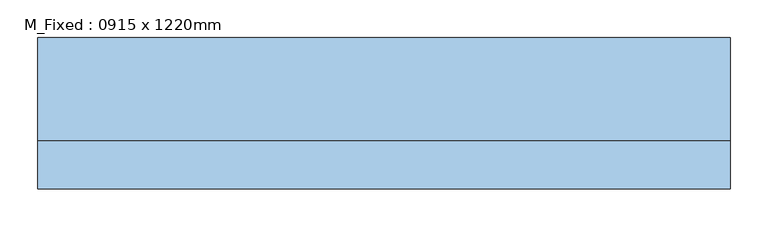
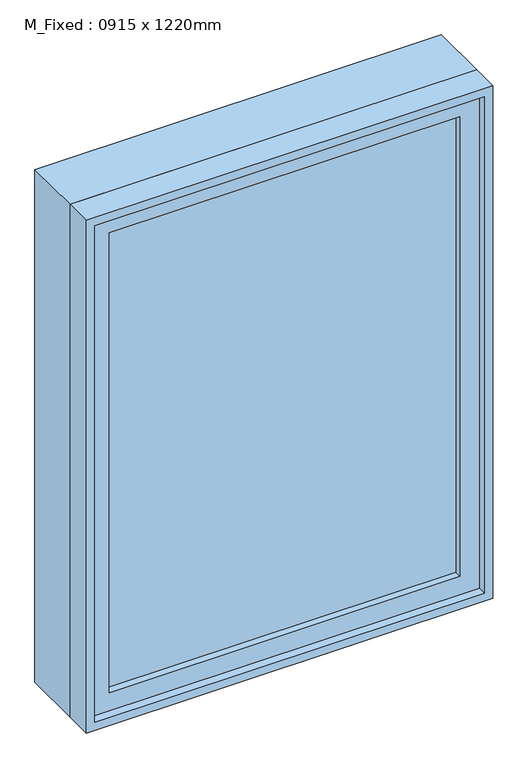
"""IFC4 building model written with IfcOpenShell, lengths in millimetres: window geometry, M_Fixed : 0915 x 1220mm."""

import ifcopenshell
import ifcopenshell.guid

model = None  # the IFC model being written
_history = None  # IfcOwnerHistory: only IFC2X3 demands one
_inside = {}  # id of a spatial element -> (the spatial element, [elements in it])
_under = {}  # id of a project, library or spatial element -> (it, [spatial elements below it])
_declared = {}  # id of a project -> (the project, [libraries it declares])
_typed = {}  # id of a type object -> (the type object, [elements of that type])
_made_of = {}  # id of a material, layer set ... -> (it, [elements and type objects made of it])


def new_model(schema):
    """Start an empty IFC model of exactly this schema.

    Asked for "IFC4X3", IfcOpenShell would pick the latest addendum, in which some entities
    have other attributes; the version numbers below select the first issue.
    IFC2X3 requires an IfcOwnerHistory on every rooted entity: one is made here for all.
    """
    global model, _history
    if schema == "IFC4X3":
        model = ifcopenshell.file(schema_version=(4, 3, 0, 0))
    else:
        model = ifcopenshell.file(schema=schema)
    _inside.clear()
    _under.clear()
    _declared.clear()
    _typed.clear()
    _made_of.clear()
    _history = None
    if model.schema == "IFC2X3":
        org = make("IfcOrganization", Name="unknown")
        user = make(
            "IfcPersonAndOrganization",
            ThePerson=make("IfcPerson", FamilyName="unknown"),
            TheOrganization=org,
        )
        app = make(
            "IfcApplication",
            ApplicationDeveloper=org,
            Version="unknown",
            ApplicationFullName="unknown",
            ApplicationIdentifier="unknown",
        )
        _history = make(
            "IfcOwnerHistory",
            OwningUser=user,
            OwningApplication=app,
            ChangeAction="ADDED",
            CreationDate=0,
        )
    return model


def make(cls, **values):
    """One entity of the class cls with the attributes given. An attribute that is None is left unset."""
    return model.create_entity(
        cls, **{name: value for name, value in values.items() if value is not None}
    )


def rooted(cls, **values):
    """An entity with a GlobalId (a new one), such as an element, a storey or a relation."""
    return make(cls, GlobalId=ifcopenshell.guid.new(), OwnerHistory=_history, **values)


def si_unit(unit_type, name, prefix=None):
    """IfcSIUnit, for example si_unit("LENGTHUNIT", "METRE", prefix="MILLI")."""
    return make("IfcSIUnit", UnitType=unit_type, Prefix=prefix, Name=name)


def assignment(units):
    """IfcUnitAssignment: the units of a project."""
    return None if units is None else make("IfcUnitAssignment", Units=units)


def point(xyz):
    """IfcCartesianPoint."""
    return None if xyz is None else make("IfcCartesianPoint", Coordinates=xyz)


def direction(xyz):
    """IfcDirection."""
    return None if xyz is None else make("IfcDirection", DirectionRatios=xyz)


def frame(location, z_axis=None, x_axis=None):
    """IfcAxis2Placement3D, a coordinate frame: its origin and axes. An axis left out is left unset."""
    return make(
        "IfcAxis2Placement3D",
        Location=point(location),
        Axis=direction(z_axis),
        RefDirection=direction(x_axis),
    )


def origin():
    """The frame at (0, 0, 0) with its axes left unset."""
    return frame((0.0, 0.0, 0.0))


def place(relative_to, where):
    """IfcLocalPlacement: puts the frame where relative to a parent placement (None: the world)."""
    return make(
        "IfcLocalPlacement", PlacementRelTo=relative_to, RelativePlacement=where
    )


def context(
    kind, dimensions, precision=None, world=None, true_north=None, identifier=None
):
    """IfcGeometricRepresentationContext, for example the 3D "Model" context."""
    return make(
        "IfcGeometricRepresentationContext",
        ContextIdentifier=identifier,
        ContextType=kind,
        CoordinateSpaceDimension=dimensions,
        Precision=precision,
        WorldCoordinateSystem=world,
        TrueNorth=true_north,
    )


def project(units=None, contexts=None):
    """IfcProject with its units and contexts."""
    return rooted(
        "IfcProject",
        Name="project",
        RepresentationContexts=contexts,
        UnitsInContext=assignment(units),
    )


def spatial(cls, under=None, at=None, **own):
    """A site, building, storey or space (cls), placed at a placement, below another one or the project."""
    s = rooted(cls, ObjectPlacement=at, **own)
    if under is not None:
        _under.setdefault(under.id(), (under, []))[1].append(s)
    return s


def polyline(points):
    """IfcPolyline through the points."""
    return make("IfcPolyline", Points=[point(p) for p in points])


def outline(outer, holes=None, kind="AREA"):
    """IfcArbitraryClosedProfileDef: a profile drawn as a closed curve; with holes, ...WithVoids."""
    if holes is None:
        return make("IfcArbitraryClosedProfileDef", ProfileType=kind, OuterCurve=outer)
    return make(
        "IfcArbitraryProfileDefWithVoids",
        ProfileType=kind,
        OuterCurve=outer,
        InnerCurves=holes,
    )


def extrude(swept, where, along, depth):
    """IfcExtrudedAreaSolid: the profile swept, set in the frame where, extruded along a direction by depth."""
    return make(
        "IfcExtrudedAreaSolid",
        SweptArea=swept,
        Position=where,
        ExtrudedDirection=direction(along),
        Depth=depth,
    )


def shape(context_of_items, identifier, shape_type, items):
    """IfcShapeRepresentation: the items that make up one representation, for example the "Body"."""
    return make(
        "IfcShapeRepresentation",
        ContextOfItems=context_of_items,
        RepresentationIdentifier=identifier,
        RepresentationType=shape_type,
        Items=items,
    )


def source(mapping_origin, context_of_items, identifier, shape_type, items):
    """IfcRepresentationMap: a shape defined once, which mapped items show again and again."""
    return make(
        "IfcRepresentationMap",
        MappingOrigin=mapping_origin,
        MappedRepresentation=shape(context_of_items, identifier, shape_type, items),
    )


def transform(
    local_origin,
    x_axis=None,
    y_axis=None,
    z_axis=None,
    scale=None,
    scale2=None,
    scale3=None,
    uniform=True,
):
    """IfcCartesianTransformationOperator3D, or its non-uniform kind. x_axis, y_axis, z_axis: its Axis1, 2, 3."""
    if uniform:
        return make(
            "IfcCartesianTransformationOperator3D",
            Axis1=direction(x_axis),
            Axis2=direction(y_axis),
            LocalOrigin=point(local_origin),
            Scale=scale,
            Axis3=direction(z_axis),
        )
    return make(
        "IfcCartesianTransformationOperator3DnonUniform",
        Axis1=direction(x_axis),
        Axis2=direction(y_axis),
        LocalOrigin=point(local_origin),
        Scale=scale,
        Axis3=direction(z_axis),
        Scale2=scale2,
        Scale3=scale3,
    )


def mapped(mapping_source, mapping_target):
    """IfcMappedItem: shows the shape of a source again, moved by a transform."""
    return make(
        "IfcMappedItem", MappingSource=mapping_source, MappingTarget=mapping_target
    )


def made_of(thing, what):
    """Note that an element or type object is made of a material, layer set ...; save() writes the relation."""
    if what is not None:
        _made_of.setdefault(what.id(), (what, []))[1].append(thing)
    return thing


def element(
    cls,
    number,
    at=None,
    inside=None,
    cuts=None,
    type_object=None,
    material=None,
    context=None,
    identifier="Body",
    shape_type=None,
    held_by="IfcProductDefinitionShape",
    body=None,
    shapes=None,
    **own,
):
    """One element of the class cls, such as IfcWall. Its Tag is "e" and its number.

    at: its placement. inside: the storey or other place that contains it. cuts: it is an
    opening in that element (IfcRelVoidsElement). A single representation is given by context,
    identifier, shape_type and body (its items); several are given by shapes. held_by: the class
    of the entity that holds the representations. save() writes the other relations.
    """
    e = rooted(cls, Tag="e%d" % number, ObjectPlacement=at, **own)
    if body is not None:
        shapes = [shape(context, identifier, shape_type, body)]
    if shapes is not None:
        e.Representation = make(held_by, Representations=shapes)
    if inside is not None:
        _inside.setdefault(inside.id(), (inside, []))[1].append(e)
    if cuts is not None:
        rooted(
            "IfcRelVoidsElement", RelatingBuildingElement=cuts, RelatedOpeningElement=e
        )
    if type_object is not None:
        _typed.setdefault(type_object.id(), (type_object, []))[1].append(e)
    return made_of(e, material)


def aggregate(whole, parts):
    """IfcRelAggregates: a whole, such as a stair, and the parts it consists of."""
    return rooted("IfcRelAggregates", RelatingObject=whole, RelatedObjects=parts)


def save(model, path):
    """Write the relations noted so far, then the file.

    IfcRelAggregates (storeys below a building ...), IfcRelContainedInSpatialStructure (elements
    in a storey), IfcRelDefinesByType, IfcRelAssociatesMaterial and IfcRelDeclares: one each for
    every whole, place, type object, material and project.
    """
    for whole, parts in _under.values():
        aggregate(whole, parts)
    for where, things in _inside.values():
        rooted(
            "IfcRelContainedInSpatialStructure",
            RelatedElements=things,
            RelatingStructure=where,
        )
    for kind, things in _typed.values():
        rooted("IfcRelDefinesByType", RelatedObjects=things, RelatingType=kind)
    for what, things in _made_of.values():
        rooted("IfcRelAssociatesMaterial", RelatedObjects=things, RelatingMaterial=what)
    for by, libraries in _declared.values():
        rooted("IfcRelDeclares", RelatingContext=by, RelatedDefinitions=libraries)
    model.write(path)


def m_fixed_0915_x_1220mm_5cd8e2eb(model_context):
    return source(origin(), model_context, "Body", "SweptSolid", [
        extrude(outline(polyline([(-394.5, -78.0), (-394.5, -66.0), (394.5, -66.0), (394.5, -78.0), (-394.5, -78.0)])), frame((0.0, 0.0, 978.0), z_axis=(0.0, 0.0, 1.0), x_axis=(1.0, 0.0, 0.0)), (0.0, 0.0, 1.0), 1094.0),
        extrude(outline(polyline([(2116.0, -438.5), (934.0, -438.5), (934.0, 438.5), (2116.0, 438.5), (2116.0, -438.5)]), holes=[polyline([(2072.0, -394.5), (2072.0, 394.5), (978.0, 394.5), (978.0, -394.5), (2072.0, -394.5)])]), frame((0.0, -94.0, 0.0), z_axis=(0.0, 1.0, 0.0), x_axis=(0.0, 0.0, 1.0)), (0.0, 0.0, 1.0), 44.0),
        extrude(outline(polyline([(2135.0, -457.5), (915.0, -457.5), (915.0, 457.5), (2135.0, 457.5), (2135.0, -457.5)]), holes=[polyline([(2116.0, -438.5), (2116.0, 438.5), (934.0, 438.5), (934.0, -438.5), (2116.0, -438.5)])]), frame((0.0, -113.0, 0.0), z_axis=(0.0, 1.0, 0.0), x_axis=(0.0, 0.0, 1.0)), (0.0, 0.0, 1.0), 63.0),
        extrude(outline(polyline([(2135.0, -457.5), (915.0, -457.5), (915.0, 457.5), (2135.0, 457.5), (2135.0, -457.5)]), holes=[polyline([(2103.0, -425.5), (2103.0, 425.5), (947.0, 425.5), (947.0, -425.5), (2103.0, -425.5)])]), frame((0.0, -50.0, 0.0), z_axis=(0.0, 1.0, 0.0), x_axis=(0.0, 0.0, 1.0)), (0.0, 0.0, 1.0), 137.0),
    ])


if __name__ == "__main__":
    model = new_model("IFC4")
    model_context = context("Model", 3, world=origin())
    ifc_project = project(units=[si_unit("LENGTHUNIT", "METRE", prefix="MILLI")], contexts=[model_context])
    site = spatial("IfcSite", under=ifc_project)
    building = spatial("IfcBuilding", under=site)
    placement = place(None, origin())
    m_fixed_0915_x_1220mm_shape = m_fixed_0915_x_1220mm_5cd8e2eb(model_context)
    element("IfcWindow", 1, ObjectType="M_Fixed : 0915 x 1220mm", at=placement, inside=building, context=model_context, shape_type="MappedRepresentation", body=[
        mapped(m_fixed_0915_x_1220mm_shape, transform((0.0, 0.0, 0.0), x_axis=(1.0, 0.0, 0.0), y_axis=(0.0, 1.0, 0.0), z_axis=(0.0, 0.0, 1.0))),
    ])
    save(model, "model.ifc")
